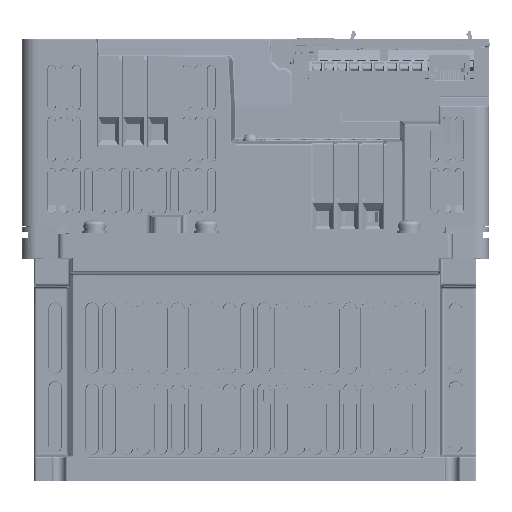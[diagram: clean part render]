
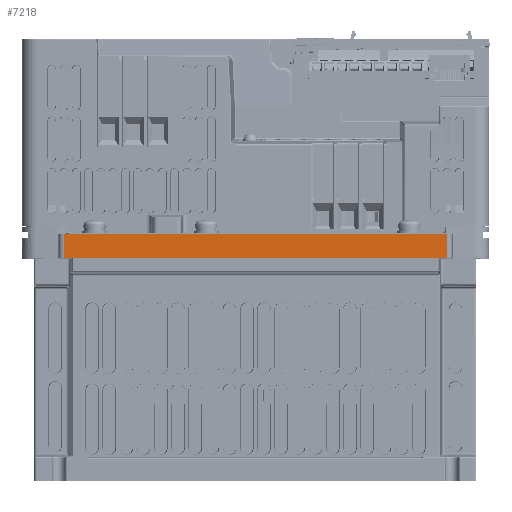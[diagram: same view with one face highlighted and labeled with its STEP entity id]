
A CAD part, front view. The second image highlights one B-rep face of the part: STEP entity #7218.
In plain terms, the highlighted planar face has unit normal (0, -1, 0).
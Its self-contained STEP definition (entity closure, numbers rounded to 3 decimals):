
#7218=ADVANCED_FACE('',(#18966),#13742,.T.);
#13742=PLANE('',#133578);
#18966=FACE_OUTER_BOUND('',#26023,.T.);
#26023=EDGE_LOOP('',(#42376,#42377,#42378,#42379,#42380,#42381));
#42376=ORIENTED_EDGE('',*,*,#89915,.T.);
#42377=ORIENTED_EDGE('',*,*,#89863,.T.);
#42378=ORIENTED_EDGE('',*,*,#89916,.T.);
#42379=ORIENTED_EDGE('',*,*,#89912,.F.);
#42380=ORIENTED_EDGE('',*,*,#89917,.T.);
#42381=ORIENTED_EDGE('',*,*,#89918,.T.);
#76560=VERTEX_POINT('',#190661);
#76561=VERTEX_POINT('',#190663);
#76596=VERTEX_POINT('',#190859);
#76597=VERTEX_POINT('',#190860);
#76598=VERTEX_POINT('',#190865);
#76599=VERTEX_POINT('',#190868);
#89863=EDGE_CURVE('',#76561,#76560,#107205,.T.);
#89912=EDGE_CURVE('',#76596,#76597,#107245,.T.);
#89915=EDGE_CURVE('',#76598,#76561,#107246,.T.);
#89916=EDGE_CURVE('',#76560,#76597,#107247,.T.);
#89917=EDGE_CURVE('',#76596,#76599,#107248,.T.);
#89918=EDGE_CURVE('',#76599,#76598,#107249,.T.);
#107205=LINE('',#190662,#120604);
#107245=LINE('',#190858,#120644);
#107246=LINE('',#190864,#120645);
#107247=LINE('',#190866,#120646);
#107248=LINE('',#190867,#120647);
#107249=LINE('',#190869,#120648);
#120604=VECTOR('',#148640,1.);
#120644=VECTOR('',#148714,1.);
#120645=VECTOR('',#148721,1.);
#120646=VECTOR('',#148722,1.);
#120647=VECTOR('',#148723,1.);
#120648=VECTOR('',#148724,1.);
#133578=AXIS2_PLACEMENT_3D('',#190870,#148725,#148726);
#148640=DIRECTION('',(0.,0.,1.));
#148714=DIRECTION('',(0.,0.,1.));
#148721=DIRECTION('',(1.,0.,0.008));
#148722=DIRECTION('',(-1.,0.,0.));
#148723=DIRECTION('',(1.,0.,-0.01));
#148724=DIRECTION('',(1.,0.,0.));
#148725=DIRECTION('',(0.,-1.,0.));
#148726=DIRECTION('',(0.,0.,1.));
#190661=CARTESIAN_POINT('',(173.107,0.,100.7));
#190662=CARTESIAN_POINT('',(173.107,0.,90.723));
#190663=CARTESIAN_POINT('',(173.107,0.,90.723));
#190858=CARTESIAN_POINT('',(16.893,0.,90.73));
#190859=CARTESIAN_POINT('',(16.893,0.,90.73));
#190860=CARTESIAN_POINT('',(16.893,0.,100.7));
#190864=CARTESIAN_POINT('',(169.347,0.,90.692));
#190865=CARTESIAN_POINT('',(169.347,0.,90.692));
#190866=CARTESIAN_POINT('',(173.107,0.,100.7));
#190867=CARTESIAN_POINT('',(16.893,0.,90.73));
#190868=CARTESIAN_POINT('',(20.653,0.,90.692));
#190869=CARTESIAN_POINT('',(20.653,0.,90.692));
#190870=CARTESIAN_POINT('',(17.,0.,90.5));
